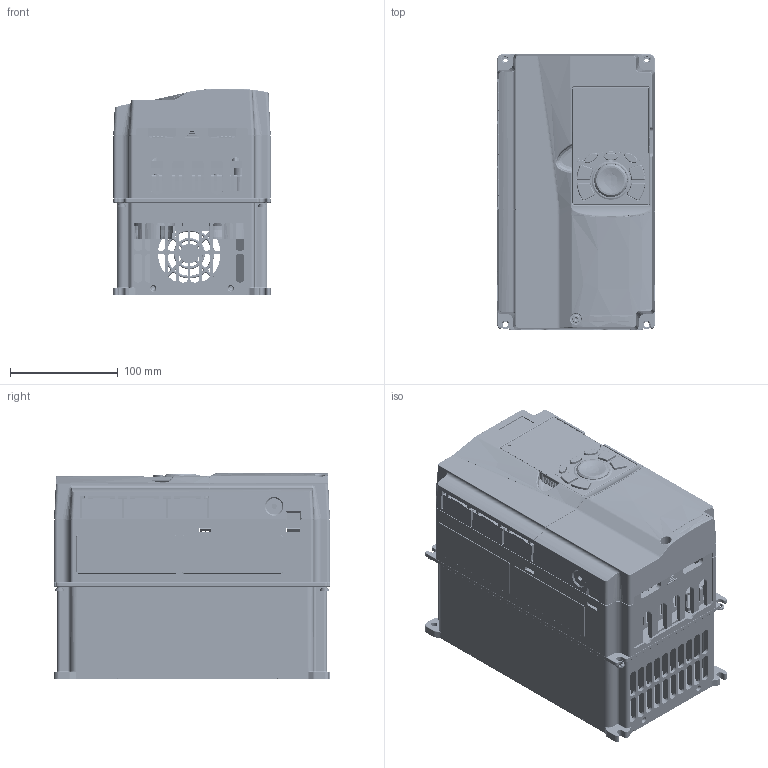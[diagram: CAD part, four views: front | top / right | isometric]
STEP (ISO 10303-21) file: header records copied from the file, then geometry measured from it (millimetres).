
FILE_DESCRIPTION((''),'2;1');
FILE_NAME('Open CASCADE Shape Model','2021-03-30T08:50:28',( 'Administrator'),(''),'Open CASCADE STEP processor 7.6', 'PRO/ENGINEER BY PARAMETRIC TECHNOLOGY CORPORATION, 2010100','Unknown' );
FILE_SCHEMA(('AUTOMOTIVE_DESIGN_CC2 { 1 2 10303 214 -1 1 5 4 }'));
Length unit declared in the file: millimetre
Products named in the file (35): GD350-7R5G-4_ASM; GD350-7R5G-4_COVER_ASM; 80810120; 80810119; 80810119SY; 80740175; 80880484; 80740177; 80310231; 80740176; GD350-7R5-4-ES_ASM; CH-LD-5R5-DRIVE_PCB; 70610025; 80740019; GD350-7R5G-4-FS_ASM; GB9074_4_M4X10; GB9074_4_M4X12; 77340010; KEY-LCD01-ZY-350_ASM; 80740163; 40810091_ASM; 80740162; 80880456; 80880456SY; 80740164; 80740164SY; KEY-LCD01-ZY-350-ES_ASM; 36002-00065; 39009-00082; 17003-02723_20180403_ASM; 17003-02723_20180403; 40800024_ASM; 80380186_ASM; S-M5-ZC; 80380187_ASM
Assembly tree (48 placements, depth 5):
  GD350-7R5G-4_ASM
    GD350-7R5G-4_COVER_ASM
      80810120
      80810119
      80810119SY
    80740175
    80880484
    80740177
    80310231
    80740176
    GD350-7R5-4-ES_ASM
      CH-LD-5R5-DRIVE_PCB
      70610025
    80740019  x4
    GD350-7R5G-4-FS_ASM
      GB9074_4_M4X10  x7
      GB9074_4_M4X12  x3
      77340010
    KEY-LCD01-ZY-350_ASM
      80740163
      40810091_ASM
        80740162
        80880456
        80880456SY
      80740164
      80740164SY
      KEY-LCD01-ZY-350-ES_ASM
        36002-00065
        39009-00082
        17003-02723_20180403_ASM
          17003-02723_20180403
    40800024_ASM
      80380186_ASM
        S-M5-ZC  x2
      80380187_ASM
        S-M5-ZC  x2
Bounding box: 147 x 256 x 191.87 mm (x, y, z)
Volume: 953655.6 mm3; surface area: 855830.8 mm2
Topology: 35 solids, 35 shells, 9124 faces, 25443 edges, 16351 vertices
Faces by surface type: plane 5056, cylinder 2713, torus 465, bspline 381, cone 259, extrusion 191, sphere 59
Entity records: 301397 total; most frequent: CARTESIAN_POINT 79683, ORIENTED_EDGE 47588, DIRECTION 44348, EDGE_CURVE 23794, VECTOR 16284, LINE 16093, VERTEX_POINT 15333, AXIS2_PLACEMENT_3D 14032
